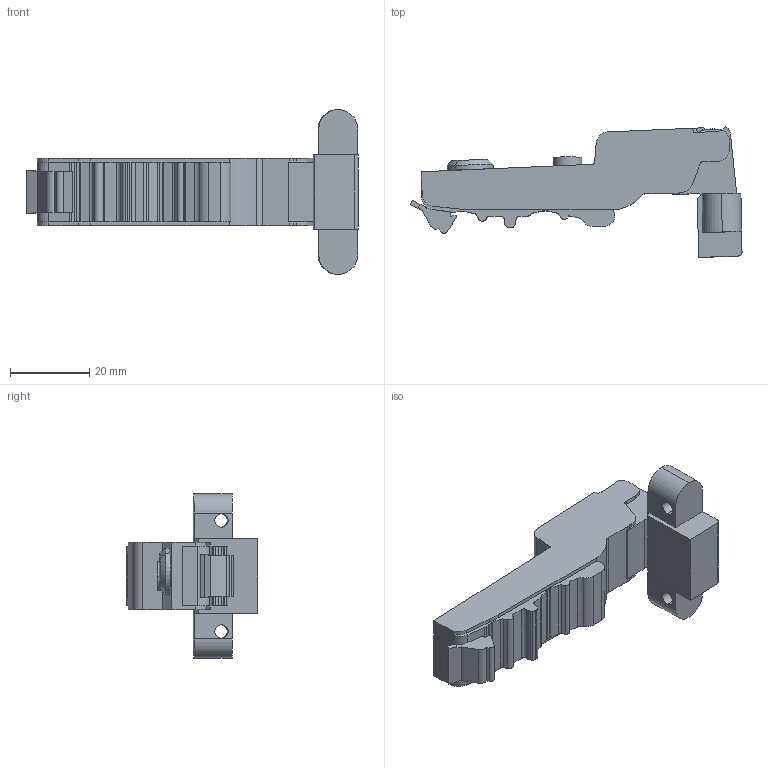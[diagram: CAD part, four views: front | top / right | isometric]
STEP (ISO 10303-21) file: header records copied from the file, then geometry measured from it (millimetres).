
FILE_DESCRIPTION (( 'STEP AP203' ), '1' );
FILE_NAME ('C82B678FA-DTC 3D close.STEP', '2025-07-21T03:05:31', ( '微软用户' ), ( '微软中国' ), 'SwSTEP 2.0', 'SolidWorks 2021', '' );
FILE_SCHEMA (( 'CONFIG_CONTROL_DESIGN' ));
Length unit declared in the file: millimetre
Products named in the file (1): C82B678FA-DTC 3D close
Bounding box: 83.85 x 33.09 x 41.6 mm (x, y, z)
Volume: 24846.9 mm3; surface area: 8110.1 mm2
Topology: 1 solids, 1 shells, 263 faces, 736 edges, 489 vertices
Faces by surface type: plane 127, cylinder 78, bspline 48, torus 8, cone 2
Entity records: 11360 total; most frequent: CARTESIAN_POINT 4754, ORIENTED_EDGE 1472, DIRECTION 1196, EDGE_CURVE 736, VERTEX_POINT 489, LINE 448, VECTOR 448, AXIS2_PLACEMENT_3D 374
